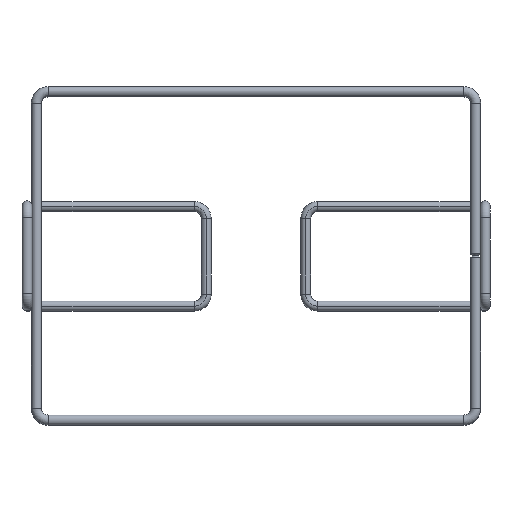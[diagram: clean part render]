
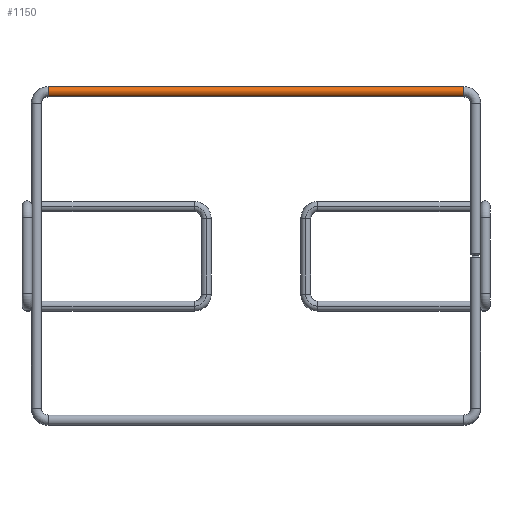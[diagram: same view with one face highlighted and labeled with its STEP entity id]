
A CAD part, top view. The second image highlights one B-rep face of the part: STEP entity #1150.
In plain terms, the highlighted cylindrical face has radius 2.5 mm (diameter 5 mm), a partial arc.
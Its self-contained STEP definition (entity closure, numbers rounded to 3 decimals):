
#1091=CARTESIAN_POINT('Vertex',(104.3,80.,70.)) ;
#1105=CARTESIAN_POINT('Vertex',(104.3,85.,70.)) ;
#1108=CARTESIAN_POINT('Axis2P3D Location',(104.3,82.5,70.)) ;
#1120=CARTESIAN_POINT('Axis2P3D Location',(0.,82.5,70.)) ;
#1125=CARTESIAN_POINT('Line Origine',(0.,85.,70.)) ;
#1129=CARTESIAN_POINT('Vertex',(-104.3,85.,70.)) ;
#1132=CARTESIAN_POINT('Axis2P3D Location',(-104.3,82.5,70.)) ;
#1136=CARTESIAN_POINT('Vertex',(-104.3,80.,70.)) ;
#1139=CARTESIAN_POINT('Line Origine',(0.,80.,70.)) ;
#1109=DIRECTION('Axis2P3D Direction',(1.,0.,0.)) ;
#1121=DIRECTION('Axis2P3D Direction',(-1.,0.,0.)) ;
#1122=DIRECTION('Axis2P3D XDirection',(0.,-1.,0.)) ;
#1126=DIRECTION('Vector Direction',(-1.,0.,0.)) ;
#1133=DIRECTION('Axis2P3D Direction',(-1.,0.,0.)) ;
#1140=DIRECTION('Vector Direction',(-1.,0.,0.)) ;
#1110=AXIS2_PLACEMENT_3D('Circle Axis2P3D',#1108,#1109,$) ;
#1123=AXIS2_PLACEMENT_3D('Cylinder Axis2P3D',#1120,#1121,#1122) ;
#1134=AXIS2_PLACEMENT_3D('Circle Axis2P3D',#1132,#1133,$) ;
#1145=ORIENTED_EDGE('',*,*,#1112,.T.) ;
#1146=ORIENTED_EDGE('',*,*,#1131,.F.) ;
#1147=ORIENTED_EDGE('',*,*,#1138,.F.) ;
#1148=ORIENTED_EDGE('',*,*,#1143,.T.) ;
#1127=VECTOR('Line Direction',#1126,1.) ;
#1141=VECTOR('Line Direction',#1140,1.) ;
#1150=ADVANCED_FACE('Body.2',(#1149),#1124,.T.) ;
#1111=CIRCLE('generated circle',#1110,2.5) ;
#1135=CIRCLE('generated circle',#1134,2.5) ;
#1124=CYLINDRICAL_SURFACE('generated cylinder',#1123,2.5) ;
#1112=EDGE_CURVE('',#1092,#1106,#1111,.F.) ;
#1131=EDGE_CURVE('',#1130,#1106,#1128,.F.) ;
#1138=EDGE_CURVE('',#1137,#1130,#1135,.T.) ;
#1143=EDGE_CURVE('',#1137,#1092,#1142,.F.) ;
#1144=EDGE_LOOP('',(#1145,#1146,#1147,#1148)) ;
#1149=FACE_OUTER_BOUND('',#1144,.T.) ;
#1128=LINE('Line',#1125,#1127) ;
#1142=LINE('Line',#1139,#1141) ;
#1092=VERTEX_POINT('',#1091) ;
#1106=VERTEX_POINT('',#1105) ;
#1130=VERTEX_POINT('',#1129) ;
#1137=VERTEX_POINT('',#1136) ;
